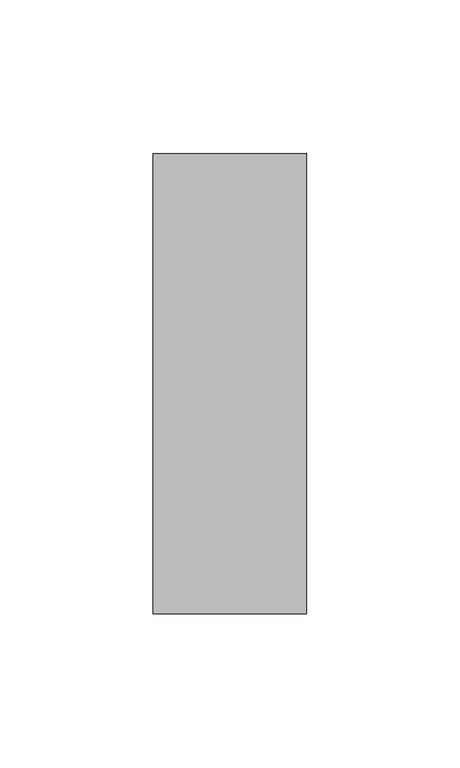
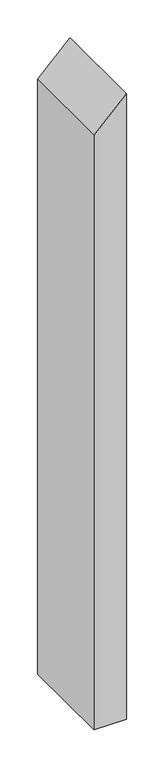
"""IFC4 building model written with IfcOpenShell, lengths in millimetres: member geometry, Прямоугольный импост : 50 x 150 мм."""

from ifc_helpers import new_model, si_unit, origin, place, context, project, spatial, faceted_brep, source, transform, mapped, element, save


def member_ca541090(model_context):
    return source(origin(), model_context, "Body", "Brep", [
        faceted_brep([(-50.0, 75.0, -50.0969079), (0.0, 75.0, 0.0113289), (0.0, 75.0, -1016.0283015), (-50.0, 75.0, -1016.0068362), (-50.0, -75.0, -50.1195657), (-50.0, -75.0, -1015.1338028), (0.0, -75.0, -0.0113289), (0.0, -75.0, -1015.1552681)], [[[0, 1, 2, 3]], [[4, 0, 3, 5]], [[6, 4, 5, 7]], [[1, 6, 7, 2]], [[1, 0, 4, 6]], [[2, 7, 5, 3]]]),
    ])


if __name__ == "__main__":
    model = new_model("IFC4")
    model_context = context("Model", 3, world=origin())
    ifc_project = project(units=[si_unit("LENGTHUNIT", "METRE", prefix="MILLI")], contexts=[model_context])
    site = spatial("IfcSite", under=ifc_project)
    building = spatial("IfcBuilding", under=site)
    placement = place(None, origin())
    member_shape = member_ca541090(model_context)
    element("IfcMember", 1, ObjectType="Прямоугольный импост : 50 x 150 мм", at=placement, inside=building, context=model_context, shape_type="MappedRepresentation", body=[
        mapped(member_shape, transform((0.0, 0.0, 0.0), x_axis=(1.0, 0.0, 0.0), y_axis=(0.0, 1.0, 0.0), z_axis=(0.0, 0.0, 1.0))),
    ])
    save(model, "model.ifc")
